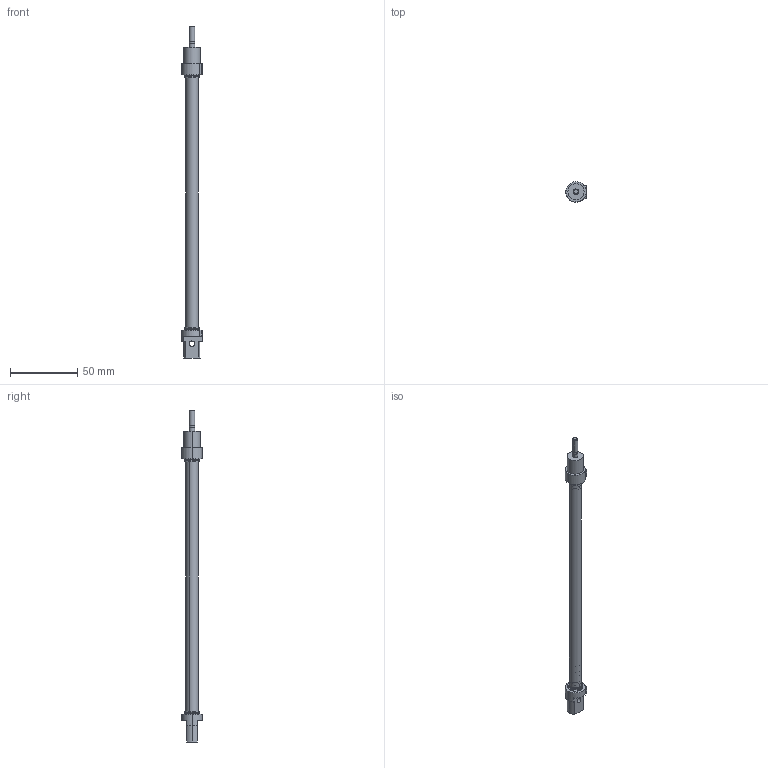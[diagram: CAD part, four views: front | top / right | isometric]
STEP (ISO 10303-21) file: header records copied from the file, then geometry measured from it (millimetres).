
FILE_DESCRIPTION (( 'STEP AP203' ), '1' );
FILE_NAME ('MA6432S8x160CYLINDER.STEP', '2015-05-13T08:17:45', ( 'user' ), ( '' ), 'SwSTEP 2.0', 'SolidWorks 2013', '' );
FILE_SCHEMA (( 'CONFIG_CONTROL_DESIGN' ));
Length unit declared in the file: millimetre
Products named in the file (6): MA6432S  8x160 BORU; MA6432S  8 烰 KAPAK; MA6432S  8x160-S M尳; MA6432S8x160CYLINDER; MA6432S  8 ARKA KAPAK; MA6432S  8 ORTA PÝSTON
Assembly tree (5 placements, depth 2):
  MA6432S8x160CYLINDER
    MA6432S  8 ARKA KAPAK
    MA6432S  8 ORTA PÝSTON
    MA6432S  8x160 BORU
    MA6432S  8 烰 KAPAK
    MA6432S  8x160-S M尳
Bounding box: 15 x 15 x 246 mm (x, y, z)
Volume: 10713 mm3; surface area: 17198.2 mm2
Topology: 5 solids, 6 shells, 172 faces, 377 edges, 236 vertices
Faces by surface type: cylinder 93, plane 47, cone 32
Entity records: 5571 total; most frequent: CARTESIAN_POINT 1034, DIRECTION 899, ORIENTED_EDGE 750, AXIS2_PLACEMENT_3D 377, EDGE_CURVE 375, VERTEX_POINT 236, EDGE_LOOP 205, CIRCLE 198
